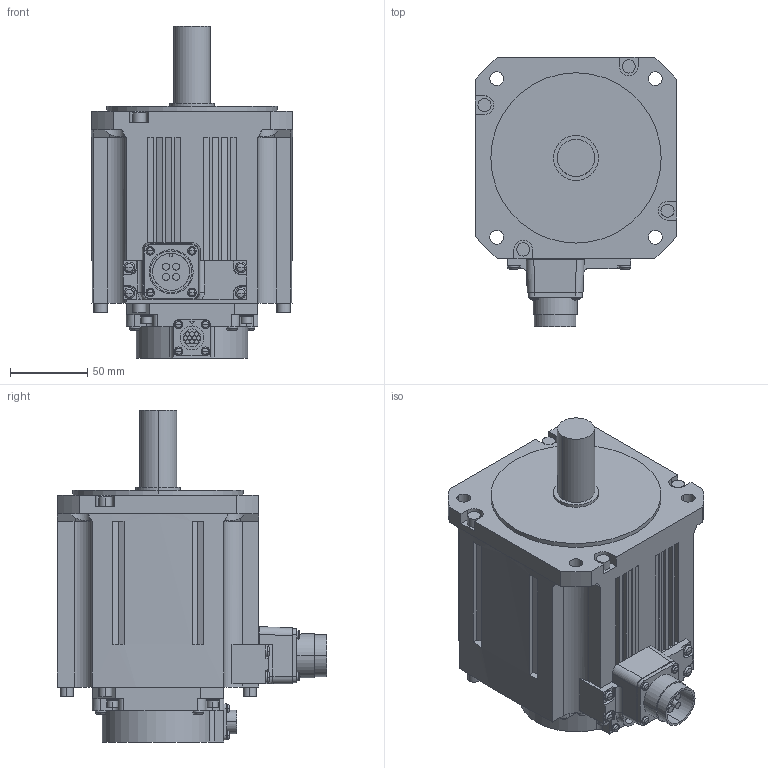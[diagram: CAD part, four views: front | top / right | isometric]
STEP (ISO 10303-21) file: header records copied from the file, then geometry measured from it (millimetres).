
FILE_DESCRIPTION((''),'2;1');
FILE_NAME('HK-ST202AW_','2019-01-17T',('XE90682'),(''),'CREO PARAMETRIC BY PTC INC, 2016380','CREO PARAMETRIC BY PTC INC, 2016380','');
FILE_SCHEMA(('CONFIG_CONTROL_DESIGN'));
Length unit declared in the file: millimetre
Products named in the file (1): HK-ST202AW_
Bounding box: 130 x 173.8 x 214.5 mm (x, y, z)
Volume: 2130403.7 mm3; surface area: 132483.7 mm2
Topology: 1 solids, 1 shells, 507 faces, 1241 edges, 782 vertices
Faces by surface type: plane 250, cylinder 183, torus 32, sphere 32, cone 8, bspline 2
Entity records: 15523 total; most frequent: CARTESIAN_POINT 3296, DIRECTION 2679, ORIENTED_EDGE 2418, EDGE_CURVE 1209, AXIS2_PLACEMENT_3D 993, VERTEX_POINT 782, VECTOR 693, LINE 693
